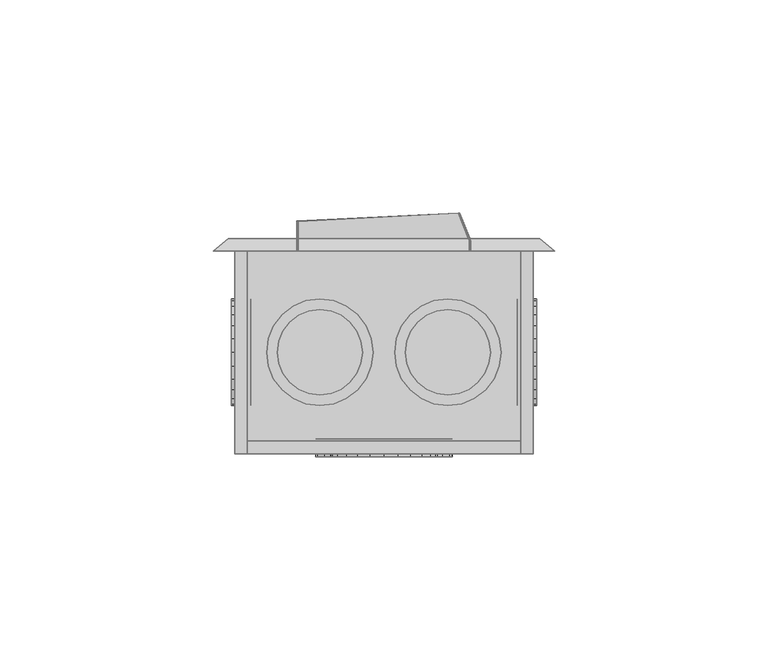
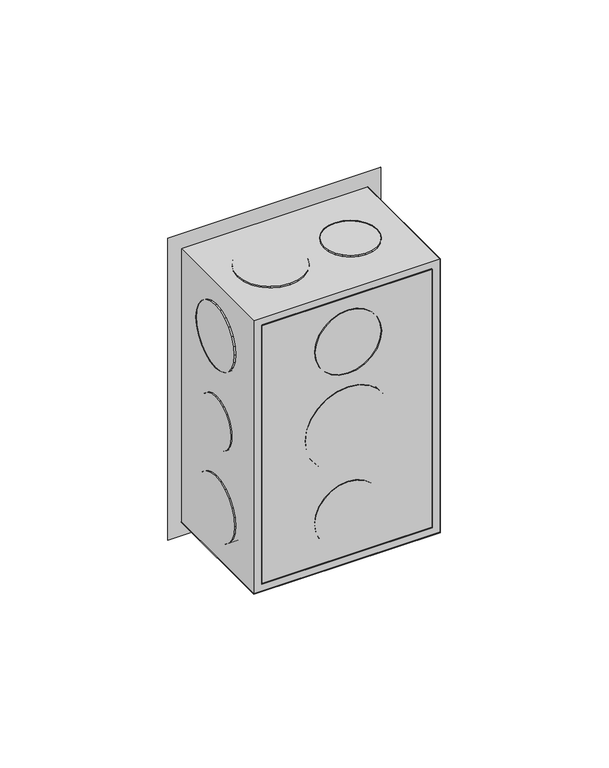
"""IFC4 building model written with IfcOpenShell, lengths in millimetres: proxy geometry,  210245 :  210245."""

from ifc_helpers import new_model, si_unit, origin, place, context, project, spatial, triangles, source, transform, mapped, element, save


def generic_models_9ea947f6(model_context):
    return source(origin(), model_context, "Body", "Tessellation", [
        triangles([(2836.7300468, 15395.8997864, 1254.3000378), (2839.7298637, 15395.8997864, 1148.7000154), (2836.7300468, 15395.8997864, 1145.6999805), (2839.7298637, 15395.8997864, 1251.2999302), (2906.7301346, 15395.8997864, 1254.3000378), (2903.730027, 15395.8997864, 1251.2999302), (2906.7301346, 15395.8997864, 1145.6999805), (2903.730027, 15395.8997864, 1148.7000154), (2839.7298637, 15348.4003601, 1251.2999302), (2839.7298637, 15348.4003601, 1148.7000154), (2906.7301346, 15348.4003601, 1254.3000378), (2906.7301346, 15348.4003601, 1145.6999805), (2903.730027, 15348.4003601, 1251.2999302), (2836.7300468, 15348.4003601, 1145.6999805), (2903.730027, 15348.4003601, 1148.7000154), (2836.7300468, 15348.4003601, 1254.3000378), (2839.7298637, 15351.400177, 1251.2999302), (2903.730027, 15351.400177, 1148.7000154), (2839.7298637, 15351.400177, 1148.7000154), (2903.730027, 15351.400177, 1251.2999302), (2863.730143, 15347.7004028, 1186.0999855), (2857.8299217, 15347.7004028, 1191.9999887), (2860.4300537, 15347.7004028, 1188.6999722), (2867.529911, 15347.7004028, 1184.5000105), (2856.2300194, 15347.7004028, 1195.8999687), (2871.7299454, 15347.7004028, 1183.9999683), (2855.7300499, 15347.7004028, 1200.0000092), (2875.8299858, 15347.7004028, 1184.5000105), (2856.2300194, 15347.7004028, 1204.0999769), (2879.7300385, 15347.7004028, 1186.0999855), (2857.8299217, 15347.7004028, 1208.0000296), (2883.0301277, 15347.7004028, 1188.6999722), (2860.4300537, 15347.7004028, 1211.2999735), (2885.5299751, 15347.7004028, 1191.9999887), (2863.730143, 15347.7004028, 1213.9000328), (2887.1298775, 15347.7004028, 1195.8999687), (2867.529911, 15347.7004028, 1215.5000078), (2887.7301315, 15347.7004028, 1200.0000092), (2871.7299454, 15347.7004028, 1215.9999773), (2887.1298775, 15347.7004028, 1204.0999769), (2875.8299858, 15347.7004028, 1215.5000078), (2885.5299751, 15347.7004028, 1208.0000296), (2879.7300385, 15347.7004028, 1213.9000328), (2883.0301277, 15347.7004028, 1211.2999735), (2867.529911, 15351.9001465, 1215.5000078), (2871.7299454, 15351.9001465, 1215.9999773), (2863.730143, 15351.9001465, 1213.9000328), (2860.4300537, 15351.9001465, 1211.2999735), (2857.8299217, 15351.9001465, 1208.0000296), (2856.2300194, 15351.9001465, 1204.0999769), (2855.7300499, 15351.9001465, 1200.0000092), (2856.2300194, 15351.9001465, 1195.8999687), (2857.8299217, 15351.9001465, 1191.9999887), (2860.4300537, 15351.9001465, 1188.6999722), (2863.730143, 15351.9001465, 1186.0999855), (2867.529911, 15351.9001465, 1184.5000105), (2871.7299454, 15351.9001465, 1183.9999683), (2875.8299858, 15351.9001465, 1184.5000105), (2879.7300385, 15351.9001465, 1186.0999855), (2883.0301277, 15351.9001465, 1188.6999722), (2885.5299751, 15351.9001465, 1191.9999887), (2887.1298775, 15351.9001465, 1195.8999687), (2887.7301315, 15351.9001465, 1200.0000092), (2887.1298775, 15351.9001465, 1204.0999769), (2885.5299751, 15351.9001465, 1208.0000296), (2883.0301277, 15351.9001465, 1211.2999735), (2879.7300385, 15351.9001465, 1213.9000328), (2875.8299858, 15351.9001465, 1215.5000078), (2860.8300293, 15351.9001465, 1227.8000565), (2865.4300392, 15351.9001465, 1223.2000465), (2862.8299072, 15351.9001465, 1225.2000698), (2859.6301025, 15351.9001465, 1230.8000187), (2868.4298561, 15351.9001465, 1221.8999805), (2859.230127, 15351.9001465, 1233.9999687), (2871.7299454, 15351.9001465, 1221.500005), (2859.6301025, 15351.9001465, 1237.2000641), (2874.9300407, 15351.9001465, 1221.8999805), (2860.8300293, 15351.9001465, 1240.3000202), (2877.9298576, 15351.9001465, 1223.2000465), (2862.8299072, 15351.9001465, 1242.800013), (2880.5299896, 15351.9001465, 1225.2000698), (2882.5298676, 15351.9001465, 1227.8000565), (2865.4300392, 15351.9001465, 1244.8000362), (2868.4298561, 15351.9001465, 1246.0999569), (2883.730085, 15351.9001465, 1230.8000187), (2871.7299454, 15351.9001465, 1246.4999325), (2884.2300545, 15351.9001465, 1233.9999687), (2874.9300407, 15351.9001465, 1246.0999569), (2883.730085, 15351.9001465, 1237.2000641), (2882.5298676, 15351.9001465, 1240.3000202), (2877.9298576, 15351.9001465, 1244.8000362), (2880.5299896, 15351.9001465, 1242.800013), (2883.730085, 15347.7004028, 1230.8000187), (2882.5298676, 15347.7004028, 1227.8000565), (2880.5299896, 15347.7004028, 1225.2000698), (2877.9298576, 15347.7004028, 1223.2000465), (2874.9300407, 15347.7004028, 1221.8999805), (2871.7299454, 15347.7004028, 1221.500005), (2868.4298561, 15347.7004028, 1221.8999805), (2865.4300392, 15347.7004028, 1223.2000465), (2862.8299072, 15347.7004028, 1225.2000698), (2860.8300293, 15347.7004028, 1227.8000565), (2859.6301025, 15347.7004028, 1230.8000187), (2859.230127, 15347.7004028, 1233.9999687), (2859.6301025, 15347.7004028, 1237.2000641), (2860.8300293, 15347.7004028, 1240.3000202), (2862.8299072, 15347.7004028, 1242.800013), (2865.4300392, 15347.7004028, 1244.8000362), (2868.4298561, 15347.7004028, 1246.0999569), (2871.7299454, 15347.7004028, 1246.4999325), (2874.9300407, 15347.7004028, 1246.0999569), (2877.9298576, 15347.7004028, 1244.8000362), (2880.5299896, 15347.7004028, 1242.800013), (2882.5298676, 15347.7004028, 1240.3000202), (2883.730085, 15347.7004028, 1237.2000641), (2884.2300545, 15347.7004028, 1233.9999687), (2865.4300392, 15347.7004028, 1155.1999821), (2860.8300293, 15347.7004028, 1159.6999981), (2862.8299072, 15347.7004028, 1157.2000053), (2868.4298561, 15347.7004028, 1153.8999887), (2859.6301025, 15347.7004028, 1162.8000269), (2871.7299454, 15347.7004028, 1153.5000132), (2859.230127, 15347.7004028, 1165.9999769), (2874.9300407, 15347.7004028, 1153.8999887), (2859.6301025, 15347.7004028, 1169.1999996), (2877.9298576, 15347.7004028, 1155.1999821), (2860.8300293, 15347.7004028, 1172.2000345), (2880.5299896, 15347.7004028, 1157.2000053), (2862.8299072, 15347.7004028, 1174.8000212), (2882.5298676, 15347.7004028, 1159.6999981), (2865.4300392, 15347.7004028, 1176.7999718), (2883.730085, 15347.7004028, 1162.8000269), (2868.4298561, 15347.7004028, 1178.0999651), (2871.7299454, 15347.7004028, 1178.5000134), (2884.2300545, 15347.7004028, 1165.9999769), (2883.730085, 15347.7004028, 1169.1999996), (2874.9300407, 15347.7004028, 1178.0999651), (2882.5298676, 15347.7004028, 1172.2000345), (2877.9298576, 15347.7004028, 1176.7999718), (2880.5299896, 15347.7004028, 1174.8000212), (2868.4298561, 15351.9001465, 1178.0999651), (2871.7299454, 15351.9001465, 1178.5000134), (2865.4300392, 15351.9001465, 1176.7999718), (2862.8299072, 15351.9001465, 1174.8000212), (2860.8300293, 15351.9001465, 1172.2000345), (2859.6301025, 15351.9001465, 1169.1999996), (2859.230127, 15351.9001465, 1165.9999769), (2859.6301025, 15351.9001465, 1162.8000269), (2860.8300293, 15351.9001465, 1159.6999981), (2862.8299072, 15351.9001465, 1157.2000053), (2865.4300392, 15351.9001465, 1155.1999821), (2868.4298561, 15351.9001465, 1153.8999887), (2871.7299454, 15351.9001465, 1153.5000132), (2874.9300407, 15351.9001465, 1153.8999887), (2877.9298576, 15351.9001465, 1155.1999821), (2880.5299896, 15351.9001465, 1157.2000053), (2882.5298676, 15351.9001465, 1159.6999981), (2883.730085, 15351.9001465, 1162.8000269), (2884.2300545, 15351.9001465, 1165.9999769), (2883.730085, 15351.9001465, 1169.1999996), (2882.5298676, 15351.9001465, 1172.2000345), (2880.5299896, 15351.9001465, 1174.8000212), (2877.9298576, 15351.9001465, 1176.7999718), (2874.9300407, 15351.9001465, 1178.0999651), (2835.9300957, 15363.4994385, 1195.0000237), (2835.9300957, 15367.2003754, 1191.3000315), (2835.9300957, 15365.1005035, 1192.9000065), (2835.9300957, 15362.4994995, 1197.4000225), (2835.9300957, 15369.6002289, 1190.3000198), (2835.9300957, 15362.1995178, 1200.0000092), (2835.9300957, 15372.2000702, 1189.9999655), (2835.9300957, 15362.4994995, 1202.5999958), (2835.9300957, 15374.7999115, 1190.3000198), (2835.9300957, 15363.4994385, 1204.9999947), (2835.9300957, 15377.199765, 1191.3000315), (2835.9300957, 15365.1005035, 1207.1000118), (2835.9300957, 15379.2996368, 1192.9000065), (2835.9300957, 15367.2003754, 1208.6999868), (2835.9300957, 15380.8995392, 1195.0000237), (2835.9300957, 15369.6002289, 1209.6999985), (2835.9300957, 15381.8994781, 1197.4000225), (2835.9300957, 15382.1994598, 1200.0000092), (2835.9300957, 15372.2000702, 1209.9999802), (2835.9300957, 15374.7999115, 1209.6999985), (2835.9300957, 15381.8994781, 1202.5999958), (2835.9300957, 15377.199765, 1208.6999868), (2835.9300957, 15380.8995392, 1204.9999947), (2835.9300957, 15379.2996368, 1207.1000118), (2840.5301056, 15369.6002289, 1209.6999985), (2840.5301056, 15372.2000702, 1209.9999802), (2840.5301056, 15374.7999115, 1209.6999985), (2840.5301056, 15377.199765, 1208.6999868), (2840.5301056, 15379.2996368, 1207.1000118), (2840.5301056, 15380.8995392, 1204.9999947), (2840.5301056, 15381.8994781, 1202.5999958), (2840.5301056, 15382.1994598, 1200.0000092), (2840.5301056, 15381.8994781, 1197.4000225), (2840.5301056, 15380.8995392, 1195.0000237), (2840.5301056, 15379.2996368, 1192.9000065), (2840.5301056, 15377.199765, 1191.3000315), (2840.5301056, 15374.7999115, 1190.3000198), (2840.5301056, 15372.2000702, 1189.9999655), (2840.5301056, 15369.6002289, 1190.3000198), (2840.5301056, 15367.2003754, 1191.3000315), (2840.5301056, 15365.1005035, 1192.9000065), (2840.5301056, 15363.4994385, 1195.0000237), (2840.5301056, 15362.4994995, 1197.4000225), (2840.5301056, 15362.1995178, 1200.0000092), (2840.5301056, 15362.4994995, 1202.5999958), (2840.5301056, 15363.4994385, 1204.9999947), (2840.5301056, 15365.1005035, 1207.1000118), (2840.5301056, 15367.2003754, 1208.6999868), (2840.5301056, 15365.9004547, 1223.2000465), (2840.5301056, 15361.3995667, 1227.8000565), (2840.5301056, 15363.3994446, 1225.2000698), (2840.5301056, 15369.0002655, 1221.8999805), (2840.5301056, 15360.099646, 1230.8000187), (2840.5301056, 15359.6996704, 1233.9999687), (2840.5301056, 15372.2000702, 1221.500005), (2840.5301056, 15375.3998749, 1221.8999805), (2840.5301056, 15360.099646, 1237.2000641), (2840.5301056, 15361.3995667, 1240.3000202), (2840.5301056, 15378.3996918, 1223.2000465), (2840.5301056, 15380.9995331, 1225.2000698), (2840.5301056, 15363.3994446, 1242.800013), (2840.5301056, 15383.0005737, 1227.8000565), (2840.5301056, 15365.9004547, 1244.8000362), (2840.5301056, 15384.3004944, 1230.8000187), (2840.5301056, 15369.0002655, 1246.0999569), (2840.5301056, 15384.70047, 1233.9999687), (2840.5301056, 15372.2000702, 1246.4999325), (2840.5301056, 15384.3004944, 1237.2000641), (2840.5301056, 15375.3998749, 1246.0999569), (2840.5301056, 15383.0005737, 1240.3000202), (2840.5301056, 15378.3996918, 1244.8000362), (2840.5301056, 15380.9995331, 1242.800013), (2835.9300957, 15372.2000702, 1221.500005), (2835.9300957, 15369.0002655, 1221.8999805), (2835.9300957, 15375.3998749, 1221.8999805), (2835.9300957, 15378.3996918, 1223.2000465), (2835.9300957, 15380.9995331, 1225.2000698), (2835.9300957, 15383.0005737, 1227.8000565), (2835.9300957, 15384.3004944, 1230.8000187), (2835.9300957, 15384.70047, 1233.9999687), (2835.9300957, 15384.3004944, 1237.2000641), (2835.9300957, 15383.0005737, 1240.3000202), (2835.9300957, 15380.9995331, 1242.800013), (2835.9300957, 15378.3996918, 1244.8000362), (2835.9300957, 15375.3998749, 1246.0999569), (2835.9300957, 15372.2000702, 1246.4999325), (2835.9300957, 15369.0002655, 1246.0999569), (2835.9300957, 15365.9004547, 1244.8000362), (2835.9300957, 15363.3994446, 1242.800013), (2835.9300957, 15361.3995667, 1240.3000202), (2835.9300957, 15360.099646, 1237.2000641), (2835.9300957, 15359.6996704, 1233.9999687), (2835.9300957, 15360.099646, 1230.8000187), (2835.9300957, 15361.3995667, 1227.8000565), (2835.9300957, 15363.3994446, 1225.2000698), (2835.9300957, 15365.9004547, 1223.2000465), (2835.9300957, 15361.3995667, 1159.6999981), (2835.9300957, 15365.9004547, 1155.1999821), (2835.9300957, 15363.3994446, 1157.2000053), (2835.9300957, 15360.099646, 1162.8000269), (2835.9300957, 15369.0002655, 1153.8999887), (2835.9300957, 15359.6996704, 1165.9999769), (2835.9300957, 15372.2000702, 1153.5000132), (2835.9300957, 15360.099646, 1169.1999996), (2835.9300957, 15375.3998749, 1153.8999887), (2835.9300957, 15361.3995667, 1172.2000345), (2835.9300957, 15378.3996918, 1155.1999821), (2835.9300957, 15363.3994446, 1174.8000212), (2835.9300957, 15380.9995331, 1157.2000053), (2835.9300957, 15365.9004547, 1176.7999718), (2835.9300957, 15383.0005737, 1159.6999981), (2835.9300957, 15369.0002655, 1178.0999651), (2835.9300957, 15384.3004944, 1162.8000269), (2835.9300957, 15372.2000702, 1178.5000134), (2835.9300957, 15384.70047, 1165.9999769), (2835.9300957, 15375.3998749, 1178.0999651), (2835.9300957, 15384.3004944, 1169.1999996), (2835.9300957, 15378.3996918, 1176.7999718), (2835.9300957, 15383.0005737, 1172.2000345), (2835.9300957, 15380.9995331, 1174.8000212), (2840.5301056, 15369.0002655, 1178.0999651), (2840.5301056, 15372.2000702, 1178.5000134), (2840.5301056, 15375.3998749, 1178.0999651), (2840.5301056, 15378.3996918, 1176.7999718), (2840.5301056, 15380.9995331, 1174.8000212), (2840.5301056, 15383.0005737, 1172.2000345), (2840.5301056, 15384.3004944, 1169.1999996), (2840.5301056, 15384.70047, 1165.9999769), (2840.5301056, 15384.3004944, 1162.8000269), (2840.5301056, 15383.0005737, 1159.6999981), (2840.5301056, 15380.9995331, 1157.2000053), (2840.5301056, 15378.3996918, 1155.1999821), (2840.5301056, 15375.3998749, 1153.8999887), (2840.5301056, 15372.2000702, 1153.5000132), (2840.5301056, 15369.0002655, 1153.8999887), (2840.5301056, 15365.9004547, 1155.1999821), (2840.5301056, 15363.3994446, 1157.2000053), (2840.5301056, 15361.3995667, 1159.6999981), (2840.5301056, 15360.099646, 1162.8000269), (2840.5301056, 15359.6996704, 1165.9999769), (2840.5301056, 15360.099646, 1169.1999996), (2840.5301056, 15361.3995667, 1172.2000345), (2840.5301056, 15363.3994446, 1174.8000212), (2840.5301056, 15365.9004547, 1176.7999718), (2907.5300858, 15367.2003754, 1191.3000315), (2907.5300858, 15363.4994385, 1195.0000237), (2907.5300858, 15365.1005035, 1192.9000065), (2907.5300858, 15362.4994995, 1197.4000225), (2907.5300858, 15369.6002289, 1190.3000198), (2907.5300858, 15362.1995178, 1200.0000092), (2907.5300858, 15372.2000702, 1189.9999655), (2907.5300858, 15374.7999115, 1190.3000198), (2907.5300858, 15362.4994995, 1202.5999958), (2907.5300858, 15363.4994385, 1204.9999947), (2907.5300858, 15377.199765, 1191.3000315), (2907.5300858, 15365.1005035, 1207.1000118), (2907.5300858, 15379.2996368, 1192.9000065), (2907.5300858, 15380.8995392, 1195.0000237), (2907.5300858, 15367.2003754, 1208.6999868), (2907.5300858, 15381.8994781, 1197.4000225), (2907.5300858, 15369.6002289, 1209.6999985), (2907.5300858, 15382.1994598, 1200.0000092), (2907.5300858, 15372.2000702, 1209.9999802), (2907.5300858, 15381.8994781, 1202.5999958), (2907.5300858, 15374.7999115, 1209.6999985), (2907.5300858, 15377.199765, 1208.6999868), (2907.5300858, 15380.8995392, 1204.9999947), (2907.5300858, 15379.2996368, 1207.1000118), (2902.9300758, 15369.6002289, 1190.3000198), (2902.9300758, 15367.2003754, 1191.3000315), (2902.9300758, 15372.2000702, 1189.9999655), (2902.9300758, 15374.7999115, 1190.3000198), (2902.9300758, 15377.199765, 1191.3000315), (2902.9300758, 15379.2996368, 1192.9000065), (2902.9300758, 15380.8995392, 1195.0000237), (2902.9300758, 15381.8994781, 1197.4000225), (2902.9300758, 15382.1994598, 1200.0000092), (2902.9300758, 15381.8994781, 1202.5999958), (2902.9300758, 15380.8995392, 1204.9999947), (2902.9300758, 15379.2996368, 1207.1000118), (2902.9300758, 15377.199765, 1208.6999868), (2902.9300758, 15374.7999115, 1209.6999985), (2902.9300758, 15372.2000702, 1209.9999802), (2902.9300758, 15369.6002289, 1209.6999985), (2902.9300758, 15367.2003754, 1208.6999868), (2902.9300758, 15365.1005035, 1207.1000118), (2902.9300758, 15363.4994385, 1204.9999947), (2902.9300758, 15362.4994995, 1202.5999958), (2902.9300758, 15362.1995178, 1200.0000092), (2902.9300758, 15362.4994995, 1197.4000225), (2902.9300758, 15363.4994385, 1195.0000237), (2902.9300758, 15365.1005035, 1192.9000065), (2902.9300758, 15361.3995667, 1159.6999981), (2902.9300758, 15365.9004547, 1155.1999821), (2902.9300758, 15363.3994446, 1157.2000053), (2902.9300758, 15360.099646, 1162.8000269), (2902.9300758, 15369.0002655, 1153.8999887), (2902.9300758, 15359.6996704, 1165.9999769), (2902.9300758, 15372.2000702, 1153.5000132), (2902.9300758, 15360.099646, 1169.1999996), (2902.9300758, 15375.3998749, 1153.8999887), (2902.9300758, 15361.3995667, 1172.2000345), (2902.9300758, 15378.3996918, 1155.1999821), (2902.9300758, 15363.3994446, 1174.8000212), (2902.9300758, 15380.9995331, 1157.2000053), (2902.9300758, 15365.9004547, 1176.7999718), (2902.9300758, 15383.0005737, 1159.6999981), (2902.9300758, 15369.0002655, 1178.0999651), (2902.9300758, 15384.3004944, 1162.8000269), (2902.9300758, 15372.2000702, 1178.5000134), (2902.9300758, 15384.70047, 1165.9999769), (2902.9300758, 15375.3998749, 1178.0999651), (2902.9300758, 15384.3004944, 1169.1999996), (2902.9300758, 15378.3996918, 1176.7999718), (2902.9300758, 15383.0005737, 1172.2000345), (2902.9300758, 15380.9995331, 1174.8000212), (2907.5300858, 15369.0002655, 1178.0999651), (2907.5300858, 15372.2000702, 1178.5000134), (2907.5300858, 15375.3998749, 1178.0999651), (2907.5300858, 15378.3996918, 1176.7999718), (2907.5300858, 15380.9995331, 1174.8000212), (2907.5300858, 15383.0005737, 1172.2000345), (2907.5300858, 15384.3004944, 1169.1999996), (2907.5300858, 15384.70047, 1165.9999769), (2907.5300858, 15384.3004944, 1162.8000269), (2907.5300858, 15383.0005737, 1159.6999981), (2907.5300858, 15380.9995331, 1157.2000053), (2907.5300858, 15378.3996918, 1155.1999821), (2907.5300858, 15375.3998749, 1153.8999887), (2907.5300858, 15372.2000702, 1153.5000132), (2907.5300858, 15369.0002655, 1153.8999887), (2907.5300858, 15365.9004547, 1155.1999821), (2907.5300858, 15363.3994446, 1157.2000053), (2907.5300858, 15361.3995667, 1159.6999981), (2907.5300858, 15360.099646, 1162.8000269), (2907.5300858, 15359.6996704, 1165.9999769), (2907.5300858, 15360.099646, 1169.1999996), (2907.5300858, 15361.3995667, 1172.2000345), (2907.5300858, 15363.3994446, 1174.8000212), (2907.5300858, 15365.9004547, 1176.7999718), (2907.5300858, 15365.9004547, 1223.2000465), (2907.5300858, 15361.3995667, 1227.8000565), (2907.5300858, 15363.3994446, 1225.2000698), (2907.5300858, 15369.0002655, 1221.8999805), (2907.5300858, 15360.099646, 1230.8000187), (2907.5300858, 15359.6996704, 1233.9999687), (2907.5300858, 15372.2000702, 1221.500005), (2907.5300858, 15375.3998749, 1221.8999805), (2907.5300858, 15360.099646, 1237.2000641), (2907.5300858, 15361.3995667, 1240.3000202), (2907.5300858, 15378.3996918, 1223.2000465), (2907.5300858, 15380.9995331, 1225.2000698), (2907.5300858, 15363.3994446, 1242.800013), (2907.5300858, 15383.0005737, 1227.8000565), (2907.5300858, 15365.9004547, 1244.8000362), (2907.5300858, 15384.3004944, 1230.8000187), (2907.5300858, 15369.0002655, 1246.0999569), (2907.5300858, 15384.70047, 1233.9999687), (2907.5300858, 15372.2000702, 1246.4999325), (2907.5300858, 15384.3004944, 1237.2000641), (2907.5300858, 15375.3998749, 1246.0999569), (2907.5300858, 15383.0005737, 1240.3000202), (2907.5300858, 15378.3996918, 1244.8000362), (2907.5300858, 15380.9995331, 1242.800013), (2902.9300758, 15372.2000702, 1221.500005), (2902.9300758, 15369.0002655, 1221.8999805), (2902.9300758, 15375.3998749, 1221.8999805), (2902.9300758, 15378.3996918, 1223.2000465), (2902.9300758, 15380.9995331, 1225.2000698), (2902.9300758, 15383.0005737, 1227.8000565), (2902.9300758, 15384.3004944, 1230.8000187), (2902.9300758, 15384.70047, 1233.9999687), (2902.9300758, 15384.3004944, 1237.2000641), (2902.9300758, 15383.0005737, 1240.3000202), (2902.9300758, 15380.9995331, 1242.800013), (2902.9300758, 15378.3996918, 1244.8000362), (2902.9300758, 15375.3998749, 1246.0999569), (2902.9300758, 15372.2000702, 1246.4999325), (2902.9300758, 15369.0002655, 1246.0999569), (2902.9300758, 15365.9004547, 1244.8000362), (2902.9300758, 15363.3994446, 1242.800013), (2902.9300758, 15361.3995667, 1240.3000202), (2902.9300758, 15360.099646, 1237.2000641), (2902.9300758, 15359.6996704, 1233.9999687), (2902.9300758, 15360.099646, 1230.8000187), (2902.9300758, 15361.3995667, 1227.8000565), (2902.9300758, 15363.3994446, 1225.2000698), (2902.9300758, 15365.9004547, 1223.2000465), (2850.4300827, 15361.3995667, 1255.1999828), (2845.8300728, 15365.9004547, 1255.1999828), (2847.8299507, 15363.3994446, 1255.1999828), (2844.6298553, 15369.0002655, 1255.1999828), (2853.4298996, 15360.099646, 1255.1999828), (2856.7299889, 15359.6996704, 1255.1999828), (2844.2298798, 15372.2000702, 1255.1999828), (2844.6298553, 15375.3998749, 1255.1999828), (2859.9300842, 15360.099646, 1255.1999828), (2862.9299011, 15361.3995667, 1255.1999828), (2845.8300728, 15378.3996918, 1255.1999828), (2847.8299507, 15380.9995331, 1255.1999828), (2865.5300331, 15363.3994446, 1255.1999828), (2867.529911, 15365.9004547, 1255.1999828), (2850.4300827, 15383.0005737, 1255.1999828), (2853.4298996, 15384.3004944, 1255.1999828), (2868.7301285, 15369.0002655, 1255.1999828), (2856.7299889, 15384.70047, 1255.1999828), (2869.230098, 15372.2000702, 1255.1999828), (2859.9300842, 15384.3004944, 1255.1999828), (2868.7301285, 15375.3998749, 1255.1999828), (2867.529911, 15378.3996918, 1255.1999828), (2862.9299011, 15383.0005737, 1255.1999828), (2865.5300331, 15380.9995331, 1255.1999828), (2856.7299889, 15384.70047, 1250.9999485), (2853.4298996, 15384.3004944, 1250.9999485), (2850.4300827, 15383.0005737, 1250.9999485), (2847.8299507, 15380.9995331, 1250.9999485), (2845.8300728, 15378.3996918, 1250.9999485), (2844.6298553, 15375.3998749, 1250.9999485), (2844.2298798, 15372.2000702, 1250.9999485), (2844.6298553, 15369.0002655, 1250.9999485), (2845.8300728, 15365.9004547, 1250.9999485), (2847.8299507, 15363.3994446, 1250.9999485), (2850.4300827, 15361.3995667, 1250.9999485), (2853.4298996, 15360.099646, 1250.9999485), (2856.7299889, 15359.6996704, 1250.9999485), (2859.9300842, 15360.099646, 1250.9999485), (2862.9299011, 15361.3995667, 1250.9999485), (2865.5300331, 15363.3994446, 1250.9999485), (2867.529911, 15365.9004547, 1250.9999485), (2868.7301285, 15369.0002655, 1250.9999485), (2869.230098, 15372.2000702, 1250.9999485), (2868.7301285, 15375.3998749, 1250.9999485), (2867.529911, 15378.3996918, 1250.9999485), (2865.5300331, 15380.9995331, 1250.9999485), (2862.9299011, 15383.0005737, 1250.9999485), (2859.9300842, 15384.3004944, 1250.9999485), (2878.0301422, 15367.2003754, 1250.9999485), (2881.7299164, 15363.4994385, 1250.9999485), (2879.6300446, 15365.1005035, 1250.9999485), (2884.1300606, 15362.4994995, 1250.9999485), (2877.0299126, 15369.6002289, 1250.9999485), (2886.7299019, 15362.1995178, 1250.9999485), (2876.7299309, 15372.2000702, 1250.9999485), (2877.0299126, 15374.7999115, 1250.9999485), (2889.3300339, 15362.4994995, 1250.9999485), (2891.7298874, 15363.4994385, 1250.9999485), (2878.0301422, 15377.199765, 1250.9999485), (2893.730056, 15365.1005035, 1250.9999485), (2879.6300446, 15379.2996368, 1250.9999485), (2881.7299164, 15380.8995392, 1250.9999485), (2895.3299583, 15367.2003754, 1250.9999485), (2896.3298973, 15369.6002289, 1250.9999485), (2884.1300606, 15381.8994781, 1250.9999485), (2886.7299019, 15382.1994598, 1250.9999485), (2896.7298729, 15372.2000702, 1250.9999485), (2889.3300339, 15381.8994781, 1250.9999485), (2896.3298973, 15374.7999115, 1250.9999485), (2891.7298874, 15380.8995392, 1250.9999485), (2895.3299583, 15377.199765, 1250.9999485), (2893.730056, 15379.2996368, 1250.9999485), (2889.3300339, 15362.4994995, 1255.1999828), (2891.7298874, 15363.4994385, 1255.1999828), (2886.7299019, 15362.1995178, 1255.1999828), (2884.1300606, 15362.4994995, 1255.1999828), (2881.7299164, 15363.4994385, 1255.1999828), (2879.6300446, 15365.1005035, 1255.1999828), (2878.0301422, 15367.2003754, 1255.1999828), (2877.0299126, 15369.6002289, 1255.1999828), (2876.7299309, 15372.2000702, 1255.1999828), (2877.0299126, 15374.7999115, 1255.1999828), (2878.0301422, 15377.199765, 1255.1999828), (2879.6300446, 15379.2996368, 1255.1999828), (2881.7299164, 15380.8995392, 1255.1999828), (2884.1300606, 15381.8994781, 1255.1999828), (2886.7299019, 15382.1994598, 1255.1999828), (2889.3300339, 15381.8994781, 1255.1999828), (2891.7298874, 15380.8995392, 1255.1999828), (2893.730056, 15379.2996368, 1255.1999828), (2895.3299583, 15377.199765, 1255.1999828), (2896.3298973, 15374.7999115, 1255.1999828), (2896.7298729, 15372.2000702, 1255.1999828), (2896.3298973, 15369.6002289, 1255.1999828), (2895.3299583, 15367.2003754, 1255.1999828), (2893.730056, 15365.1005035, 1255.1999828), (2848.0299385, 15367.2003754, 1144.8000355), (2851.7300034, 15363.4994385, 1144.8000355), (2849.6301315, 15365.1005035, 1144.8000355), (2854.1298569, 15362.4994995, 1144.8000355), (2847.0299995, 15369.6002289, 1144.8000355), (2856.7299889, 15362.1995178, 1144.8000355), (2846.7300179, 15372.2000702, 1144.8000355), (2847.0299995, 15374.7999115, 1144.8000355), (2859.3301208, 15362.4994995, 1144.8000355), (2861.7299744, 15363.4994385, 1144.8000355), (2848.0299385, 15377.199765, 1144.8000355), (2863.730143, 15365.1005035, 1144.8000355), (2849.6301315, 15379.2996368, 1144.8000355), (2851.7300034, 15380.8995392, 1144.8000355), (2865.3300453, 15367.2003754, 1144.8000355), (2866.3299843, 15369.6002289, 1144.8000355), (2854.1298569, 15381.8994781, 1144.8000355), (2856.7299889, 15382.1994598, 1144.8000355), (2866.7299599, 15372.2000702, 1144.8000355), (2859.3301208, 15381.8994781, 1144.8000355), (2866.3299843, 15374.7999115, 1144.8000355), (2861.7299744, 15380.8995392, 1144.8000355), (2865.3300453, 15377.199765, 1144.8000355), (2863.730143, 15379.2996368, 1144.8000355), (2854.1298569, 15362.4994995, 1149.099991), (2856.7299889, 15362.1995178, 1149.099991), (2851.7300034, 15363.4994385, 1149.099991), (2849.6301315, 15365.1005035, 1149.099991), (2848.0299385, 15367.2003754, 1149.099991), (2847.0299995, 15369.6002289, 1149.099991), (2846.7300179, 15372.2000702, 1149.099991), (2847.0299995, 15374.7999115, 1149.099991), (2848.0299385, 15377.199765, 1149.099991), (2849.6301315, 15379.2996368, 1149.099991), (2851.7300034, 15380.8995392, 1149.099991), (2854.1298569, 15381.8994781, 1149.099991), (2856.7299889, 15382.1994598, 1149.099991), (2859.3301208, 15381.8994781, 1149.099991), (2861.7299744, 15380.8995392, 1149.099991), (2863.730143, 15379.2996368, 1149.099991), (2865.3300453, 15377.199765, 1149.099991), (2866.3299843, 15374.7999115, 1149.099991), (2866.7299599, 15372.2000702, 1149.099991), (2866.3299843, 15369.6002289, 1149.099991), (2865.3300453, 15367.2003754, 1149.099991), (2863.730143, 15365.1005035, 1149.099991), (2861.7299744, 15363.4994385, 1149.099991), (2859.3301208, 15362.4994995, 1149.099991), (2875.8299858, 15365.9004547, 1144.8000355), (2880.4299957, 15361.3995667, 1144.8000355), (2877.8298637, 15363.3994446, 1144.8000355), (2874.6300591, 15369.0002655, 1144.8000355), (2883.4301033, 15360.099646, 1144.8000355), (2886.7299019, 15359.6996704, 1144.8000355), (2874.2300835, 15372.2000702, 1144.8000355), (2874.6300591, 15375.3998749, 1144.8000355), (2889.9299973, 15360.099646, 1144.8000355), (2892.9301048, 15361.3995667, 1144.8000355), (2875.8299858, 15378.3996918, 1144.8000355), (2877.8298637, 15380.9995331, 1144.8000355), (2895.5299461, 15363.3994446, 1144.8000355), (2897.5301147, 15365.9004547, 1144.8000355), (2880.4299957, 15383.0005737, 1144.8000355), (2883.4301033, 15384.3004944, 1144.8000355), (2898.7300415, 15369.0002655, 1144.8000355), (2886.7299019, 15384.70047, 1144.8000355), (2899.230011, 15372.2000702, 1144.8000355), (2889.9299973, 15384.3004944, 1144.8000355), (2898.7300415, 15375.3998749, 1144.8000355), (2897.5301147, 15378.3996918, 1144.8000355), (2892.9301048, 15383.0005737, 1144.8000355), (2895.5299461, 15380.9995331, 1144.8000355), (2889.9299973, 15360.099646, 1149.099991), (2892.9301048, 15361.3995667, 1149.099991), (2886.7299019, 15359.6996704, 1149.099991), (2883.4301033, 15360.099646, 1149.099991), (2880.4299957, 15361.3995667, 1149.099991), (2877.8298637, 15363.3994446, 1149.099991), (2875.8299858, 15365.9004547, 1149.099991), (2874.6300591, 15369.0002655, 1149.099991), (2874.2300835, 15372.2000702, 1149.099991), (2874.6300591, 15375.3998749, 1149.099991), (2875.8299858, 15378.3996918, 1149.099991), (2877.8298637, 15380.9995331, 1149.099991), (2880.4299957, 15383.0005737, 1149.099991), (2883.4301033, 15384.3004944, 1149.099991), (2886.7299019, 15384.70047, 1149.099991), (2889.9299973, 15384.3004944, 1149.099991), (2892.9301048, 15383.0005737, 1149.099991), (2895.5299461, 15380.9995331, 1149.099991), (2897.5301147, 15378.3996918, 1149.099991), (2898.7300415, 15375.3998749, 1149.099991), (2899.230011, 15372.2000702, 1149.099991), (2898.7300415, 15369.0002655, 1149.099991), (2897.5301147, 15365.9004547, 1149.099991), (2895.5299461, 15363.3994446, 1149.099991), (2911.7301201, 15395.8997864, 1139.9999651), (2851.5300156, 15395.8997864, 1164.5999897), (2831.7300613, 15395.8997864, 1139.9999651), (2891.9298752, 15395.8997864, 1164.5999897), (2911.7301201, 15395.8997864, 1259.9999805), (2891.9298752, 15395.8997864, 1188.0000149), (2891.9298752, 15395.8997864, 1211.3999674), (2891.9298752, 15395.8997864, 1234.8000652), (2831.7300613, 15395.8997864, 1259.9999805), (2851.5300156, 15395.8997864, 1188.0000149), (2851.5300156, 15395.8997864, 1211.3999674), (2851.5300156, 15395.8997864, 1234.8000652), (2851.5300156, 15398.8996033, 1188.0000149), (2891.9298752, 15398.8996033, 1188.0000149), (2851.5300156, 15398.8996033, 1234.8000652), (2891.9298752, 15398.8996033, 1234.8000652), (2891.9298752, 15398.8996033, 1164.5999897), (2891.9298752, 15398.8996033, 1211.3999674), (2851.5300156, 15398.8996033, 1164.5999897), (2851.5300156, 15398.8996033, 1211.3999674), (2835.2301384, 15398.8996033, 1143.4999695), (2835.2301384, 15398.8996033, 1256.5000488), (2908.230043, 15398.8996033, 1143.4999695), (2908.230043, 15398.8996033, 1256.5000488), (2851.6300095, 15402.9005219, 1211.2999735), (2892.0298691, 15395.8997864, 1211.2999735), (2851.6300095, 15395.8997864, 1211.2999735), (2889.4300278, 15404.8004059, 1211.2999735), (2892.0298691, 15398.3996338, 1211.2999735), (2851.6300095, 15395.8997864, 1234.7000713), (2892.0298691, 15395.8997864, 1234.7000713), (2851.6300095, 15402.9005219, 1234.7000713), (2889.4300278, 15404.8004059, 1234.7000713), (2892.0298691, 15398.3996338, 1234.7000713), (2851.3300278, 15402.9005219, 1164.6999836), (2891.7298874, 15395.8997864, 1164.6999836), (2851.3300278, 15395.8997864, 1164.6999836), (2889.1300461, 15404.8004059, 1164.6999836), (2891.7298874, 15398.3996338, 1164.6999836), (2851.3300278, 15395.8997864, 1188.1000088), (2891.7298874, 15395.8997864, 1188.1000088), (2851.3300278, 15402.9005219, 1188.1000088), (2889.1300461, 15404.8004059, 1188.1000088), (2891.7298874, 15398.3996338, 1188.1000088)], [[1, 2, 3], [2, 1, 4], [5, 4, 1], [4, 5, 6], [3, 2, 7], [7, 2, 8], [7, 8, 6], [7, 6, 5], [2, 9, 10], [9, 2, 4], [7, 11, 12], [11, 7, 5], [4, 13, 9], [13, 4, 6], [3, 12, 14], [12, 3, 7], [13, 8, 15], [8, 13, 6], [16, 3, 14], [3, 16, 1], [15, 2, 10], [2, 15, 8], [11, 1, 16], [1, 11, 5], [12, 10, 14], [10, 12, 15], [11, 15, 12], [15, 11, 13], [14, 10, 16], [16, 10, 9], [16, 9, 13], [16, 13, 11], [17, 18, 19], [18, 17, 20], [18, 13, 15], [13, 18, 20], [19, 15, 10], [15, 19, 18], [9, 19, 10], [19, 9, 17], [13, 17, 9], [17, 13, 20], [15, 9, 10], [9, 15, 13], [21, 22, 23], [22, 21, 24], [25, 22, 24], [25, 24, 26], [27, 25, 26], [27, 26, 28], [29, 27, 28], [29, 28, 30], [31, 29, 30], [31, 30, 32], [31, 32, 33], [33, 32, 34], [33, 34, 35], [35, 34, 36], [35, 36, 37], [37, 36, 38], [37, 38, 39], [39, 38, 40], [39, 40, 41], [41, 40, 42], [41, 42, 43], [43, 42, 44], [39, 45, 37], [45, 39, 46], [37, 47, 35], [47, 37, 45], [35, 48, 33], [48, 35, 47], [33, 49, 31], [49, 33, 48], [31, 50, 29], [50, 31, 49], [29, 51, 27], [51, 29, 50], [27, 52, 25], [52, 27, 51], [25, 53, 22], [53, 25, 52], [22, 54, 23], [54, 22, 53], [54, 21, 23], [21, 54, 55], [55, 24, 21], [24, 55, 56], [56, 26, 24], [26, 56, 57], [57, 28, 26], [28, 57, 58], [58, 30, 28], [30, 58, 59], [59, 32, 30], [32, 59, 60], [60, 34, 32], [34, 60, 61], [61, 36, 34], [36, 61, 62], [62, 38, 36], [38, 62, 63], [63, 40, 38], [40, 63, 64], [64, 42, 40], [42, 64, 65], [65, 44, 42], [44, 65, 66], [44, 67, 43], [67, 44, 66], [43, 68, 41], [68, 43, 67], [41, 46, 39], [46, 41, 68], [53, 55, 54], [55, 53, 52], [56, 55, 52], [56, 52, 51], [57, 56, 51], [57, 51, 50], [58, 57, 50], [58, 50, 49], [59, 58, 49], [59, 49, 48], [59, 48, 60], [60, 48, 47], [60, 47, 61], [61, 47, 45], [61, 45, 62], [62, 45, 46], [62, 46, 63], [63, 46, 68], [63, 68, 64], [64, 68, 67], [64, 67, 65], [65, 67, 66], [69, 70, 71], [70, 69, 72], [73, 70, 72], [73, 72, 74], [75, 73, 74], [75, 74, 76], [77, 75, 76], [77, 76, 78], [79, 77, 78], [79, 78, 80], [81, 79, 80], [81, 80, 82], [82, 80, 83], [82, 83, 84], [82, 84, 85], [85, 84, 86], [85, 86, 87], [87, 86, 88], [87, 88, 89], [89, 88, 90], [90, 88, 91], [90, 91, 92], [82, 93, 94], [93, 82, 85], [81, 94, 95], [94, 81, 82], [79, 95, 96], [95, 79, 81], [77, 96, 97], [96, 77, 79], [75, 97, 98], [97, 75, 77], [73, 98, 99], [98, 73, 75], [70, 99, 100], [99, 70, 73], [71, 100, 101], [100, 71, 70], [102, 71, 101], [71, 102, 69], [103, 69, 102], [69, 103, 72], [104, 72, 103], [72, 104, 74], [105, 74, 104], [74, 105, 76], [106, 76, 105], [76, 106, 78], [107, 78, 106], [78, 107, 80], [108, 80, 107], [80, 108, 83], [109, 83, 108], [83, 109, 84], [110, 84, 109], [84, 110, 86], [111, 86, 110], [86, 111, 88], [112, 88, 111], [88, 112, 91], [113, 91, 112], [91, 113, 92], [90, 113, 114], [113, 90, 92], [89, 114, 115], [114, 89, 90], [87, 115, 116], [115, 87, 89], [85, 116, 93], [116, 85, 87], [100, 102, 101], [102, 100, 99], [103, 102, 99], [103, 99, 98], [104, 103, 98], [104, 98, 97], [105, 104, 97], [106, 105, 97], [106, 97, 96], [106, 96, 95], [106, 95, 107], [107, 95, 94], [107, 94, 108], [108, 94, 93], [108, 93, 109], [109, 93, 116], [109, 116, 110], [110, 116, 115], [110, 115, 111], [111, 115, 114], [111, 114, 112], [112, 114, 113], [117, 118, 119], [118, 117, 120], [121, 118, 120], [121, 120, 122], [123, 121, 122], [123, 122, 124], [125, 123, 124], [125, 124, 126], [127, 125, 126], [127, 126, 128], [127, 128, 129], [129, 128, 130], [129, 130, 131], [131, 130, 132], [131, 132, 133], [133, 132, 134], [134, 132, 135], [134, 135, 136], [134, 136, 137], [137, 136, 138], [137, 138, 139], [139, 138, 140], [134, 141, 133], [141, 134, 142], [133, 143, 131], [143, 133, 141], [131, 144, 129], [144, 131, 143], [129, 145, 127], [145, 129, 144], [127, 146, 125], [146, 127, 145], [125, 147, 123], [147, 125, 146], [123, 148, 121], [148, 123, 147], [121, 149, 118], [149, 121, 148], [118, 150, 119], [150, 118, 149], [150, 117, 119], [117, 150, 151], [151, 120, 117], [120, 151, 152], [152, 122, 120], [122, 152, 153], [153, 124, 122], [124, 153, 154], [154, 126, 124], [126, 154, 155], [155, 128, 126], [128, 155, 156], [156, 130, 128], [130, 156, 157], [157, 132, 130], [132, 157, 158], [158, 135, 132], [135, 158, 159], [159, 136, 135], [136, 159, 160], [160, 138, 136], [138, 160, 161], [161, 140, 138], [140, 161, 162], [140, 163, 139], [163, 140, 162], [139, 164, 137], [164, 139, 163], [137, 142, 134], [142, 137, 164], [149, 151, 150], [151, 149, 148], [152, 151, 148], [153, 152, 148], [153, 148, 147], [153, 147, 146], [154, 153, 146], [154, 146, 145], [155, 154, 145], [155, 145, 144], [156, 155, 144], [156, 144, 157], [157, 144, 143], [157, 143, 141], [157, 141, 158], [158, 141, 142], [158, 142, 159], [159, 142, 164], [159, 164, 160], [160, 164, 163], [160, 163, 161], [161, 163, 162], [165, 166, 167], [166, 165, 168], [169, 166, 168], [169, 168, 170], [171, 169, 170], [171, 170, 172], [173, 171, 172], [173, 172, 174], [175, 173, 174], [175, 174, 176], [177, 175, 176], [177, 176, 178], [177, 178, 179], [179, 178, 180], [179, 180, 181], [181, 180, 182], [182, 180, 183], [182, 183, 184], [182, 184, 185], [185, 184, 186], [185, 186, 187], [187, 186, 188], [189, 183, 180], [183, 189, 190], [190, 184, 183], [184, 190, 191], [191, 186, 184], [186, 191, 192], [192, 188, 186], [188, 192, 193], [188, 194, 187], [194, 188, 193], [187, 195, 185], [195, 187, 194], [185, 196, 182], [196, 185, 195], [182, 197, 181], [197, 182, 196], [181, 198, 179], [198, 181, 197], [179, 199, 177], [199, 179, 198], [177, 200, 175], [200, 177, 199], [175, 201, 173], [201, 175, 200], [173, 202, 171], [202, 173, 201], [171, 203, 169], [203, 171, 202], [169, 204, 166], [204, 169, 203], [166, 205, 167], [205, 166, 204], [205, 165, 167], [165, 205, 206], [206, 168, 165], [168, 206, 207], [207, 170, 168], [170, 207, 208], [208, 172, 170], [172, 208, 209], [209, 174, 172], [174, 209, 210], [210, 176, 174], [176, 210, 211], [211, 178, 176], [178, 211, 212], [212, 180, 178], [180, 212, 189], [204, 206, 205], [207, 206, 204], [207, 204, 203], [208, 207, 203], [208, 203, 202], [208, 202, 201], [209, 208, 201], [210, 209, 201], [210, 201, 200], [211, 210, 200], [211, 200, 199], [211, 199, 198], [211, 198, 212], [212, 198, 197], [212, 197, 189], [189, 197, 196], [189, 196, 190], [190, 196, 195], [190, 195, 191], [191, 195, 192], [192, 195, 194], [192, 194, 193], [213, 214, 215], [214, 213, 216], [217, 214, 216], [218, 217, 216], [218, 216, 219], [218, 219, 220], [221, 218, 220], [222, 221, 220], [222, 220, 223], [222, 223, 224], [222, 224, 225], [225, 224, 226], [225, 226, 227], [227, 226, 228], [227, 228, 229], [229, 228, 230], [229, 230, 231], [231, 230, 232], [231, 232, 233], [233, 232, 234], [233, 234, 235], [235, 234, 236], [237, 216, 238], [216, 237, 219], [239, 219, 237], [219, 239, 220], [240, 220, 239], [220, 240, 223], [241, 223, 240], [223, 241, 224], [242, 224, 241], [224, 242, 226], [243, 226, 242], [226, 243, 228], [244, 228, 243], [228, 244, 230], [245, 230, 244], [230, 245, 232], [246, 232, 245], [232, 246, 234], [247, 234, 246], [234, 247, 236], [235, 247, 248], [247, 235, 236], [233, 248, 249], [248, 233, 235], [231, 249, 250], [249, 231, 233], [229, 250, 251], [250, 229, 231], [227, 251, 252], [251, 227, 229], [225, 252, 253], [252, 225, 227], [222, 253, 254], [253, 222, 225], [221, 254, 255], [254, 221, 222], [218, 255, 256], [255, 218, 221], [217, 256, 257], [256, 217, 218], [214, 257, 258], [257, 214, 217], [215, 258, 259], [258, 215, 214], [260, 215, 259], [215, 260, 213], [238, 213, 260], [213, 238, 216], [258, 260, 259], [260, 258, 257], [238, 260, 257], [238, 257, 256], [237, 238, 256], [237, 256, 255], [239, 237, 255], [239, 255, 254], [240, 239, 254], [240, 254, 253], [240, 253, 241], [241, 253, 252], [241, 252, 242], [242, 252, 251], [242, 251, 243], [243, 251, 244], [244, 251, 250], [244, 250, 249], [244, 249, 245], [245, 249, 246], [246, 249, 248], [246, 248, 247], [261, 262, 263], [262, 261, 264], [265, 262, 264], [265, 264, 266], [267, 265, 266], [267, 266, 268], [269, 267, 268], [269, 268, 270], [271, 269, 270], [271, 270, 272], [271, 272, 273], [273, 272, 274], [273, 274, 275], [275, 274, 276], [275, 276, 277], [277, 276, 278], [277, 278, 279], [279, 278, 280], [279, 280, 281], [281, 280, 282], [281, 282, 283], [283, 282, 284], [285, 278, 276], [278, 285, 286], [286, 280, 278], [280, 286, 287], [287, 282, 280], [282, 287, 288], [288, 284, 282], [284, 288, 289], [284, 290, 283], [290, 284, 289], [283, 291, 281], [291, 283, 290], [281, 292, 279], [292, 281, 291], [279, 293, 277], [293, 279, 292], [277, 294, 275], [294, 277, 293], [275, 295, 273], [295, 275, 294], [273, 296, 271], [296, 273, 295], [271, 297, 269], [297, 271, 296], [269, 298, 267], [298, 269, 297], [267, 299, 265], [299, 267, 298], [265, 300, 262], [300, 265, 299], [262, 301, 263], [301, 262, 300], [301, 261, 263], [261, 301, 302], [302, 264, 261], [264, 302, 303], [303, 266, 264], [266, 303, 304], [304, 268, 266], [268, 304, 305], [305, 270, 268], [270, 305, 306], [306, 272, 270], [272, 306, 307], [307, 274, 272], [274, 307, 308], [308, 276, 274], [276, 308, 285], [300, 302, 301], [302, 300, 299], [303, 302, 299], [303, 299, 298], [304, 303, 298], [304, 298, 297], [305, 304, 297], [305, 297, 296], [306, 305, 296], [306, 296, 295], [306, 295, 307], [307, 295, 294], [307, 294, 308], [308, 294, 293], [308, 293, 285], [285, 293, 286], [286, 293, 292], [286, 292, 291], [286, 291, 287], [287, 291, 288], [288, 291, 290], [288, 290, 289], [309, 310, 311], [312, 310, 309], [312, 309, 313], [314, 312, 313], [314, 313, 315], [314, 315, 316], [317, 314, 316], [318, 317, 316], [318, 316, 319], [320, 318, 319], [320, 319, 321], [320, 321, 322], [320, 322, 323], [323, 322, 324], [323, 324, 325], [325, 324, 326], [325, 326, 327], [327, 326, 328], [327, 328, 329], [329, 328, 330], [330, 328, 331], [330, 331, 332], [333, 309, 334], [309, 333, 313], [335, 313, 333], [313, 335, 315], [336, 315, 335], [315, 336, 316], [337, 316, 336], [316, 337, 319], [338, 319, 337], [319, 338, 321], [339, 321, 338], [321, 339, 322], [340, 322, 339], [322, 340, 324], [341, 324, 340], [324, 341, 326], [342, 326, 341], [326, 342, 328], [343, 328, 342], [328, 343, 331], [344, 331, 343], [331, 344, 332], [330, 344, 345], [344, 330, 332], [329, 345, 346], [345, 329, 330], [327, 346, 347], [346, 327, 329], [325, 347, 348], [347, 325, 327], [323, 348, 349], [348, 323, 325], [320, 349, 350], [349, 320, 323], [318, 350, 351], [350, 318, 320], [317, 351, 352], [351, 317, 318], [314, 352, 353], [352, 314, 317], [312, 353, 354], [353, 312, 314], [310, 354, 355], [354, 310, 312], [311, 355, 356], [355, 311, 310], [334, 311, 356], [311, 334, 309], [355, 334, 356], [334, 355, 354], [333, 334, 354], [333, 354, 353], [335, 333, 353], [335, 353, 352], [336, 335, 352], [336, 352, 351], [337, 336, 351], [337, 351, 350], [338, 337, 350], [338, 350, 349], [338, 349, 339], [339, 349, 348], [339, 348, 340], [340, 348, 341], [341, 348, 347], [341, 347, 346], [341, 346, 342], [342, 346, 345], [342, 345, 343], [343, 345, 344], [357, 358, 359], [358, 357, 360], [361, 358, 360], [361, 360, 362], [363, 361, 362], [363, 362, 364], [365, 363, 364], [365, 364, 366], [367, 365, 366], [367, 366, 368], [367, 368, 369], [369, 368, 370], [369, 370, 371], [371, 370, 372], [371, 372, 373], [373, 372, 374], [373, 374, 375], [375, 374, 376], [375, 376, 377], [377, 376, 378], [377, 378, 379], [379, 378, 380], [381, 374, 372], [374, 381, 382], [382, 376, 374], [376, 382, 383], [383, 378, 376], [378, 383, 384], [384, 380, 378], [380, 384, 385], [380, 386, 379], [386, 380, 385], [379, 387, 377], [387, 379, 386], [377, 388, 375], [388, 377, 387], [375, 389, 373], [389, 375, 388], [373, 390, 371], [390, 373, 389], [371, 391, 369], [391, 371, 390], [369, 392, 367], [392, 369, 391], [367, 393, 365], [393, 367, 392], [365, 394, 363], [394, 365, 393], [363, 395, 361], [395, 363, 394], [361, 396, 358], [396, 361, 395], [358, 397, 359], [397, 358, 396], [397, 357, 359], [357, 397, 398], [398, 360, 357], [360, 398, 399], [399, 362, 360], [362, 399, 400], [400, 364, 362], [364, 400, 401], [401, 366, 364], [366, 401, 402], [402, 368, 366], [368, 402, 403], [403, 370, 368], [370, 403, 404], [404, 372, 370], [372, 404, 381], [396, 398, 397], [398, 396, 395], [399, 398, 395], [399, 395, 394], [400, 399, 394], [400, 394, 393], [401, 400, 393], [401, 393, 392], [402, 401, 392], [402, 392, 391], [402, 391, 403], [403, 391, 390], [403, 390, 404], [404, 390, 389], [404, 389, 381], [381, 389, 382], [382, 389, 388], [382, 388, 387], [382, 387, 383], [383, 387, 384], [384, 387, 386], [384, 386, 385], [405, 406, 407], [406, 405, 408], [409, 406, 408], [410, 409, 408], [410, 408, 411], [410, 411, 412], [413, 410, 412], [414, 413, 412], [414, 412, 415], [414, 415, 416], [414, 416, 417], [417, 416, 418], [417, 418, 419], [419, 418, 420], [419, 420, 421], [421, 420, 422], [421, 422, 423], [423, 422, 424], [423, 424, 425], [425, 424, 426], [425, 426, 427], [427, 426, 428], [429, 408, 430], [408, 429, 411], [431, 411, 429], [411, 431, 412], [432, 412, 431], [412, 432, 415], [433, 415, 432], [415, 433, 416], [434, 416, 433], [416, 434, 418], [435, 418, 434], [418, 435, 420], [436, 420, 435], [420, 436, 422], [437, 422, 436], [422, 437, 424], [438, 424, 437], [424, 438, 426], [439, 426, 438], [426, 439, 428], [427, 439, 440], [439, 427, 428], [425, 440, 441], [440, 425, 427], [423, 441, 442], [441, 423, 425], [421, 442, 443], [442, 421, 423], [419, 443, 444], [443, 419, 421], [417, 444, 445], [444, 417, 419], [414, 445, 446], [445, 414, 417], [413, 446, 447], [446, 413, 414], [410, 447, 448], [447, 410, 413], [409, 448, 449], [448, 409, 410], [406, 449, 450], [449, 406, 409], [407, 450, 451], [450, 407, 406], [452, 407, 451], [407, 452, 405], [430, 405, 452], [405, 430, 408], [450, 452, 451], [452, 450, 449], [430, 452, 449], [430, 449, 448], [429, 430, 448], [429, 448, 447], [431, 429, 447], [431, 447, 446], [432, 431, 446], [432, 446, 445], [432, 445, 433], [433, 445, 444], [433, 444, 434], [434, 444, 443], [434, 443, 435], [435, 443, 436], [436, 443, 442], [436, 442, 441], [436, 441, 437], [437, 441, 438], [438, 441, 440], [438, 440, 439], [453, 454, 455], [456, 454, 453], [456, 453, 457], [456, 457, 458], [459, 456, 458], [460, 459, 458], [460, 458, 461], [460, 461, 462], [463, 460, 462], [464, 463, 462], [464, 462, 465], [464, 465, 466], [464, 466, 467], [467, 466, 468], [468, 466, 469], [468, 469, 470], [470, 469, 471], [470, 471, 472], [472, 471, 473], [472, 473, 474], [472, 474, 475], [475, 474, 476], [468, 477, 478], [477, 468, 470], [467, 478, 479], [478, 467, 468], [464, 479, 480], [479, 464, 467], [463, 480, 481], [480, 463, 464], [460, 481, 482], [481, 460, 463], [459, 482, 483], [482, 459, 460], [456, 483, 484], [483, 456, 459], [454, 484, 485], [484, 454, 456], [455, 485, 486], [485, 455, 454], [487, 455, 486], [455, 487, 453], [488, 453, 487], [453, 488, 457], [489, 457, 488], [457, 489, 458], [490, 458, 489], [458, 490, 461], [491, 461, 490], [461, 491, 462], [492, 462, 491], [462, 492, 465], [493, 465, 492], [465, 493, 466], [494, 466, 493], [466, 494, 469], [495, 469, 494], [469, 495, 471], [496, 471, 495], [471, 496, 473], [497, 473, 496], [473, 497, 474], [498, 474, 497], [474, 498, 476], [475, 498, 499], [498, 475, 476], [472, 499, 500], [499, 472, 475], [470, 500, 477], [500, 470, 472], [485, 487, 486], [487, 485, 484], [488, 487, 484], [489, 488, 484], [489, 484, 483], [489, 483, 482], [490, 489, 482], [491, 490, 482], [491, 482, 481], [491, 481, 480], [492, 491, 480], [492, 480, 493], [493, 480, 479], [493, 479, 478], [493, 478, 494], [494, 478, 477], [494, 477, 495], [495, 477, 500], [495, 500, 496], [496, 500, 497], [497, 500, 499], [497, 499, 498], [501, 502, 503], [504, 502, 501], [504, 501, 505], [506, 504, 505], [506, 505, 507], [506, 507, 508], [509, 506, 508], [510, 509, 508], [510, 508, 511], [512, 510, 511], [512, 511, 513], [512, 513, 514], [512, 514, 515], [515, 514, 516], [516, 514, 517], [516, 517, 518], [516, 518, 519], [519, 518, 520], [519, 520, 521], [521, 520, 522], [521, 522, 523], [523, 522, 524], [510, 525, 509], [525, 510, 526], [509, 527, 506], [527, 509, 525], [506, 528, 504], [528, 506, 527], [504, 529, 502], [529, 504, 528], [502, 530, 503], [530, 502, 529], [530, 501, 503], [501, 530, 531], [531, 505, 501], [505, 531, 532], [532, 507, 505], [507, 532, 533], [533, 508, 507], [508, 533, 534], [534, 511, 508], [511, 534, 535], [535, 513, 511], [513, 535, 536], [536, 514, 513], [514, 536, 537], [537, 517, 514], [517, 537, 538], [538, 518, 517], [518, 538, 539], [539, 520, 518], [520, 539, 540], [540, 522, 520], [522, 540, 541], [541, 524, 522], [524, 541, 542], [524, 543, 523], [543, 524, 542], [523, 544, 521], [544, 523, 543], [521, 545, 519], [545, 521, 544], [519, 546, 516], [546, 519, 545], [516, 547, 515], [547, 516, 546], [515, 548, 512], [548, 515, 547], [512, 526, 510], [526, 512, 548], [529, 531, 530], [531, 529, 528], [532, 531, 528], [532, 528, 527], [533, 532, 527], [534, 533, 527], [534, 527, 525], [534, 525, 526], [535, 534, 526], [535, 526, 548], [536, 535, 548], [536, 548, 537], [537, 548, 547], [537, 547, 546], [537, 546, 538], [538, 546, 539], [539, 546, 545], [539, 545, 540], [540, 545, 544], [540, 544, 541], [541, 544, 543], [541, 543, 542], [549, 550, 551], [552, 550, 549], [552, 549, 553], [554, 552, 553], [554, 553, 555], [554, 555, 556], [557, 554, 556], [558, 557, 556], [558, 556, 559], [560, 558, 559], [560, 559, 561], [560, 561, 562], [560, 562, 563], [563, 562, 564], [564, 562, 565], [564, 565, 566], [564, 566, 567], [567, 566, 568], [567, 568, 569], [569, 568, 570], [569, 570, 571], [571, 570, 572], [554, 573, 552], [573, 554, 574], [552, 575, 550], [575, 552, 573], [550, 576, 551], [576, 550, 575], [576, 549, 551], [549, 576, 577], [577, 553, 549], [553, 577, 578], [578, 555, 553], [555, 578, 579], [579, 556, 555], [556, 579, 580], [580, 559, 556], [559, 580, 581], [581, 561, 559], [561, 581, 582], [582, 562, 561], [562, 582, 583], [583, 565, 562], [565, 583, 584], [584, 566, 565], [566, 584, 585], [585, 568, 566], [568, 585, 586], [586, 570, 568], [570, 586, 587], [587, 572, 570], [572, 587, 588], [572, 589, 571], [589, 572, 588], [571, 590, 569], [590, 571, 589], [569, 591, 567], [591, 569, 590], [567, 592, 564], [592, 567, 591], [564, 593, 563], [593, 564, 592], [563, 594, 560], [594, 563, 593], [560, 595, 558], [595, 560, 594], [558, 596, 557], [596, 558, 595], [557, 574, 554], [574, 557, 596], [575, 577, 576], [577, 575, 573], [578, 577, 573], [578, 573, 574], [579, 578, 574], [580, 579, 574], [580, 574, 596], [580, 596, 595], [581, 580, 595], [581, 595, 594], [582, 581, 594], [582, 594, 583], [583, 594, 593], [583, 593, 592], [583, 592, 584], [584, 592, 585], [585, 592, 591], [585, 591, 586], [586, 591, 590], [586, 590, 587], [587, 590, 589], [587, 589, 588], [597, 598, 599], [598, 597, 600], [601, 598, 600], [602, 601, 600], [602, 600, 603], [602, 603, 604], [605, 602, 604], [606, 605, 604], [606, 604, 607], [606, 607, 608], [609, 606, 608], [609, 608, 610], [610, 608, 611], [610, 611, 612], [610, 612, 613], [613, 612, 614], [613, 614, 615], [615, 614, 616], [615, 616, 617], [617, 616, 618], [618, 616, 619], [618, 619, 620], [606, 621, 605], [621, 606, 622], [605, 623, 602], [623, 605, 621], [602, 624, 601], [624, 602, 623], [601, 625, 598], [625, 601, 624], [598, 626, 599], [626, 598, 625], [626, 597, 599], [597, 626, 627], [627, 600, 597], [600, 627, 628], [628, 603, 600], [603, 628, 629], [629, 604, 603], [604, 629, 630], [630, 607, 604], [607, 630, 631], [631, 608, 607], [608, 631, 632], [632, 611, 608], [611, 632, 633], [633, 612, 611], [612, 633, 634], [634, 614, 612], [614, 634, 635], [635, 616, 614], [616, 635, 636], [636, 619, 616], [619, 636, 637], [637, 620, 619], [620, 637, 638], [620, 639, 618], [639, 620, 638], [618, 640, 617], [640, 618, 639], [617, 641, 615], [641, 617, 640], [615, 642, 613], [642, 615, 641], [613, 643, 610], [643, 613, 642], [610, 644, 609], [644, 610, 643], [609, 622, 606], [622, 609, 644], [625, 627, 626], [628, 627, 625], [628, 625, 624], [628, 624, 623], [629, 628, 623], [630, 629, 623], [630, 623, 621], [630, 621, 622], [631, 630, 622], [632, 631, 622], [632, 622, 644], [632, 644, 643], [632, 643, 633], [633, 643, 634], [634, 643, 642], [634, 642, 635], [635, 642, 641], [635, 641, 636], [636, 641, 640], [636, 640, 639], [636, 639, 637], [637, 639, 638], [645, 646, 647], [646, 645, 648], [649, 648, 645], [648, 649, 650], [650, 649, 651], [651, 649, 652], [647, 646, 653], [653, 646, 654], [653, 654, 655], [653, 655, 656], [653, 656, 652], [653, 652, 649], [650, 655, 654], [655, 650, 651], [657, 650, 654], [650, 657, 658], [659, 652, 656], [652, 659, 660], [650, 661, 648], [661, 650, 658], [652, 662, 651], [662, 652, 660], [648, 663, 646], [663, 648, 661], [651, 664, 655], [664, 651, 662], [663, 654, 646], [654, 663, 657], [664, 656, 655], [656, 664, 659], [653, 665, 647], [665, 653, 666], [647, 665, 645], [645, 665, 667], [668, 645, 667], [645, 668, 649], [653, 668, 666], [649, 668, 653], [664, 658, 657], [658, 664, 662], [666, 663, 665], [663, 666, 657], [657, 666, 664], [664, 666, 659], [660, 659, 666], [668, 660, 666], [665, 663, 667], [667, 663, 661], [667, 661, 668], [668, 661, 658], [668, 658, 662], [668, 662, 660], [669, 670, 671], [670, 669, 672], [670, 672, 673], [670, 674, 671], [674, 670, 675], [674, 669, 671], [669, 674, 676], [676, 672, 669], [672, 676, 677], [672, 678, 673], [678, 672, 677], [673, 675, 670], [675, 673, 678], [675, 676, 674], [676, 675, 677], [677, 675, 678], [679, 680, 681], [680, 679, 682], [680, 682, 683], [680, 684, 681], [684, 680, 685], [684, 679, 681], [679, 684, 686], [686, 682, 679], [682, 686, 687], [682, 688, 683], [688, 682, 687], [683, 685, 680], [685, 683, 688], [685, 686, 684], [686, 685, 687], [687, 685, 688]], closed=False),
    ])


if __name__ == "__main__":
    model = new_model("IFC4")
    model_context = context("Model", 3, world=origin())
    ifc_project = project(units=[si_unit("LENGTHUNIT", "METRE", prefix="MILLI")], contexts=[model_context])
    site = spatial("IfcSite", under=ifc_project)
    building = spatial("IfcBuilding", under=site)
    placement = place(None, origin())
    generic_models_shape = generic_models_9ea947f6(model_context)
    element("IfcBuildingElementProxy", 1, Name=" 210245 :  210245", ObjectType=" 210245 :  210245", at=placement, inside=building, context=model_context, shape_type="MappedRepresentation", body=[
        mapped(generic_models_shape, transform((0.0, 0.0, 0.0), x_axis=(1.0, 0.0, 0.0), y_axis=(0.0, 1.0, 0.0), z_axis=(0.0, 0.0, 1.0))),
    ])
    save(model, "model.ifc")
